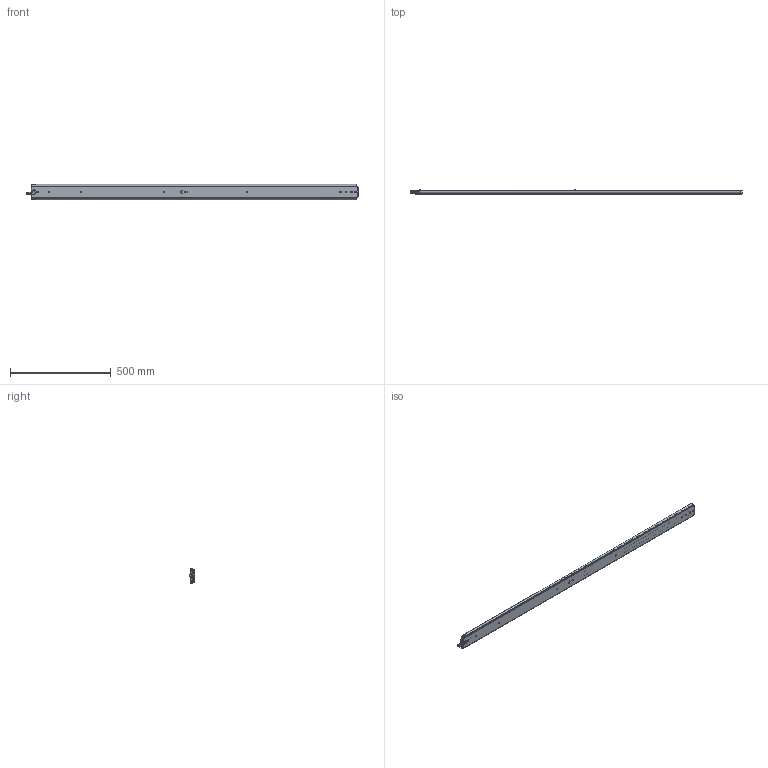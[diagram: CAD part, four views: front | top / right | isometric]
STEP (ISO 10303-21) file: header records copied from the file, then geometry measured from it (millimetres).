
FILE_DESCRIPTION((''),'2;1');
FILE_NAME('DG-76-3S-64ZUO_ASM','2023-05-11T',('jishu015'),(''),'PRO/ENGINEER BY PARAMETRIC TECHNOLOGY CORPORATION, 2010280','PRO/ENGINEER BY PARAMETRIC TECHNOLOGY CORPORATION, 2010280','');
FILE_SCHEMA(('CONFIG_CONTROL_DESIGN'));
Products named in the file (29): KP-76-04WAIKE-181621_; 1076-WAIKEZIDANJIAO1621____; WAIK16________________ASM; 1076XIAOZHUTIAO-2251621____; 16_______________; 1076XIAOZHUTIAO-1751621_____ASM; KP-76-04ZHONGGUI181611___; 76CHANGGUIZHONGGUIJIAO162111_; 3X6WODIN16_______________; ZHONGGUIBAIKOU16_______________; PJ-76-30______________; PJ-76-03______________; 76-XIAOZHUJIA-11______________; GANGZHU-XIAO______________; ZHUJIA-XIAO_______________ASM; ZHONGGUI6________________ASM; KP-76-04NEIGUI181611_; PJ-76-31______________; DAOGPIAN16_______________; 1053-3SBANJ01______________; JIAO-11______________; 76XINSUOKOU______________; PJ-338______________; PJ-356______________; PJ-357______________; PJ-336______________; M4X4______________; NEIGUI16________________ASM; DG-76-3S-64ZUO_ASM
Assembly tree (120 placements, depth 4):
  DG-76-3S-64ZUO_ASM
    WAIK16________________ASM
      KP-76-04WAIKE-181621_
      1076-WAIKEZIDANJIAO1621____  x2
    1076XIAOZHUTIAO-1751621_____ASM  x2
      1076XIAOZHUTIAO-2251621____
      16_______________
    ZHONGGUI6________________ASM
      KP-76-04ZHONGGUI181611___
      76CHANGGUIZHONGGUIJIAO162111_
      3X6WODIN16_______________
      ZHONGGUIBAIKOU16_______________
      PJ-76-30______________
      PJ-76-03______________
      ZHUJIA-XIAO_______________ASM
        76-XIAOZHUJIA-11______________
        GANGZHU-XIAO______________  x62
    NEIGUI16________________ASM
      KP-76-04NEIGUI181611_
      PJ-76-31______________
      DAOGPIAN16_______________
      1053-3SBANJ01______________
      JIAO-11______________
      76XINSUOKOU______________
      PJ-338______________
      PJ-356______________
      PJ-357______________
      PJ-336______________
      M4X4______________
Bounding box: 1651.52 x 20.7 x 75.3 mm (x, y, z)
Volume: 1078140.6 mm3; surface area: 1039382.9 mm2
Topology: 146 solids, 146 shells, 3237 faces, 9985 edges, 6273 vertices
Faces by surface type: plane 1681, cylinder 1178, sphere 251, bspline 60, cone 28, extrusion 23, torus 16
Entity records: 101415 total; most frequent: CARTESIAN_POINT 27037, ORIENTED_EDGE 16542, DIRECTION 14502, EDGE_CURVE 8271, VERTEX_POINT 5385, AXIS2_PLACEMENT_3D 5099, VECTOR 4304, LINE 4281
